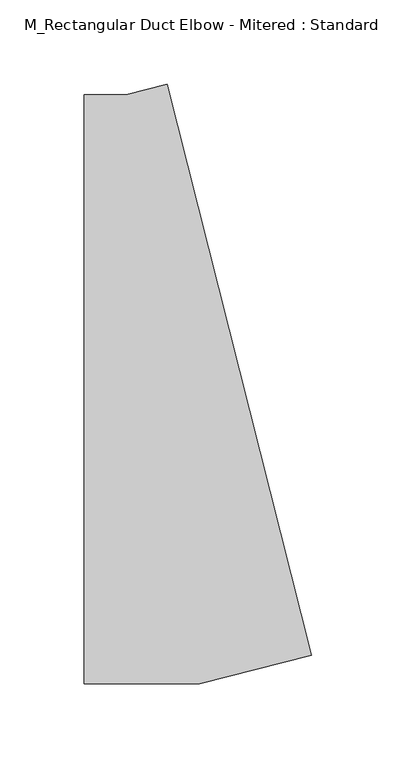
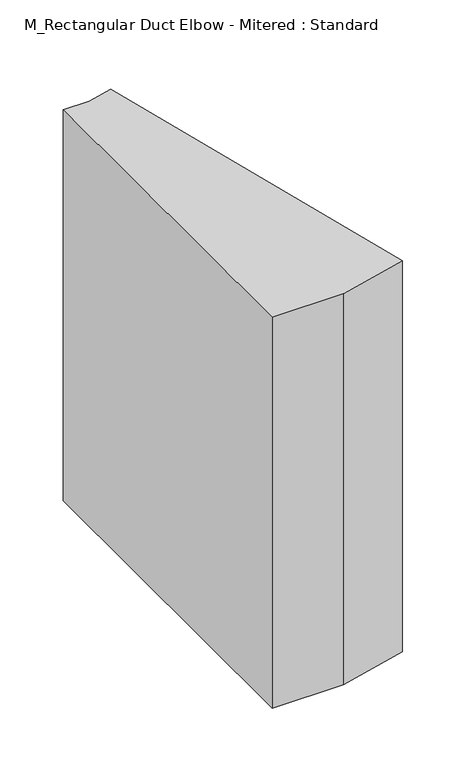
"""IFC4 building model written with IfcOpenShell, lengths in millimetres: duct fitting geometry, M_Rectangular Duct Elbow - Mitered : Standard."""

from ifc_helpers import new_model, si_unit, frame, origin, place, context, project, spatial, polyline, outline, extrude, source, transform, mapped, element, save


def m_rectangular_duct_elbow_mitered_standard_d64d472b(model_context):
    return source(origin(), model_context, "Body", "SweptSolid", [
        extrude(outline(polyline([(-46.8419544, -175.0), (-46.8419544, 175.0), (-21.8419544, 175.0), (2.3911016, 181.1448352), (88.4187945, -158.117948), (21.8419544, -175.0), (-46.8419544, -175.0)])), frame((0.0, 0.0, -200.0), z_axis=(0.0, 0.0, 1.0), x_axis=(1.0, 0.0, 0.0)), (0.0, 0.0, 1.0), 400.0),
        extrude(outline(polyline([(-46.8419544, -175.0), (-46.8419544, 175.0), (-21.8419544, 175.0), (2.3911016, 181.1448352), (88.4187945, -158.117948), (21.8419544, -175.0), (-46.8419544, -175.0)])), frame((0.0, 0.0, -200.0), z_axis=(0.0, 0.0, 1.0), x_axis=(1.0, 0.0, 0.0)), (0.0, 0.0, 1.0), 400.0),
        extrude(outline(polyline([(-46.8419544, -175.0), (-46.8419544, 175.0), (-21.8419544, 175.0), (2.3911016, 181.1448352), (88.4187945, -158.117948), (21.8419544, -175.0), (-46.8419544, -175.0)])), frame((0.0, 0.0, -200.0), z_axis=(0.0, 0.0, 1.0), x_axis=(1.0, 0.0, 0.0)), (0.0, 0.0, 1.0), 400.0),
    ])


if __name__ == "__main__":
    model = new_model("IFC4")
    model_context = context("Model", 3, world=origin())
    ifc_project = project(units=[si_unit("LENGTHUNIT", "METRE", prefix="MILLI")], contexts=[model_context])
    site = spatial("IfcSite", under=ifc_project)
    building = spatial("IfcBuilding", under=site)
    placement = place(None, origin())
    m_rectangular_duct_elbow_mitered_standard_shape = m_rectangular_duct_elbow_mitered_standard_d64d472b(model_context)
    element("IfcDuctFitting", 1, ObjectType="M_Rectangular Duct Elbow - Mitered : Standard", at=placement, inside=building, context=model_context, shape_type="MappedRepresentation", body=[
        mapped(m_rectangular_duct_elbow_mitered_standard_shape, transform((0.0, 0.0, 0.0), x_axis=(1.0, 0.0, 0.0), y_axis=(0.0, 1.0, 0.0), z_axis=(0.0, 0.0, 1.0))),
    ])
    save(model, "model.ifc")
